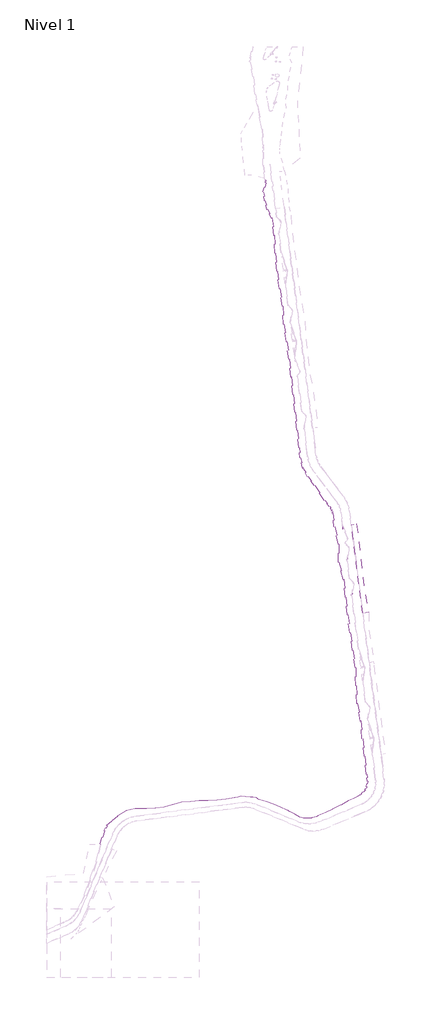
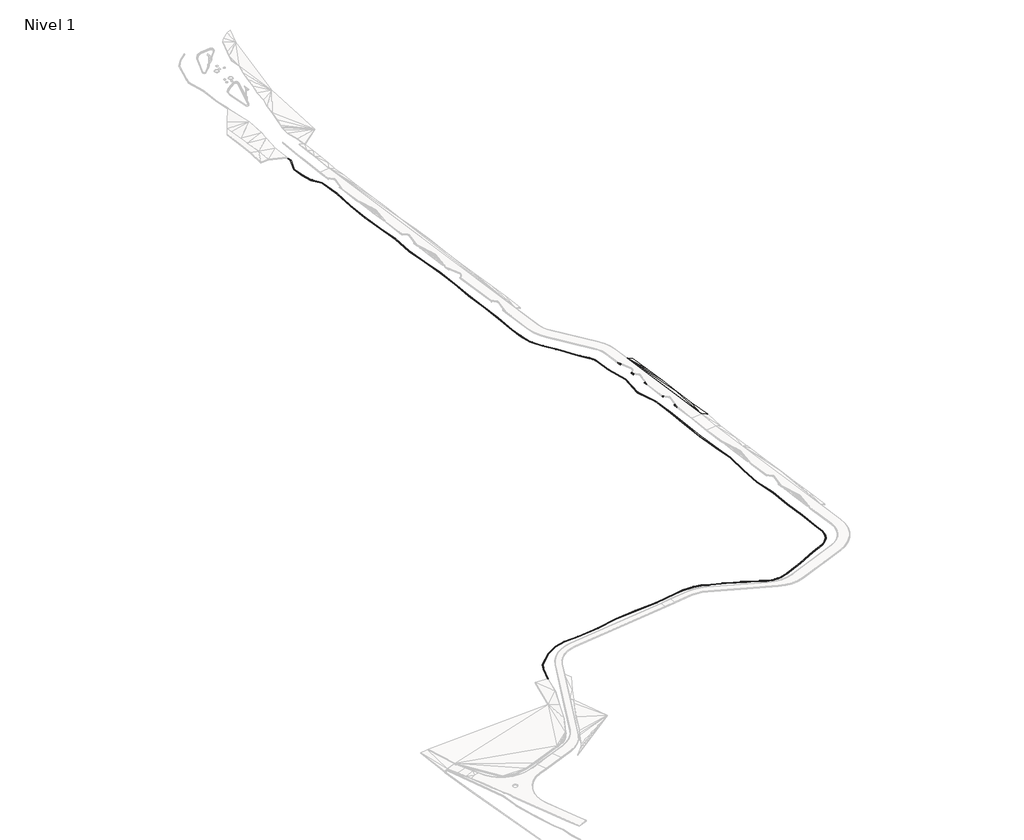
# One storey, part 32 of 45: 5 slabs.
"""IFC4 building model written with IfcOpenShell, lengths in millimetres."""

from ifc_helpers import new_model, si_unit, point, frame, frame_2d, origin, place, context, project, spatial, polyline, circle_curve, trimmed, segment, composite_curve, outline, extrude, faceted_brep, element, save

model = new_model("IFC4")

# Units and contexts
model_context = context("Model", 3, world=origin())
ifc_project = project(units=[si_unit("LENGTHUNIT", "METRE", prefix="MILLI")], contexts=[model_context])

# Site, building, storey
site = spatial("IfcSite", under=ifc_project)
building = spatial("IfcBuilding", under=site)
storey = spatial("IfcBuildingStorey", under=building, Name="Nivel 1", Elevation=0.0)

# Slabs
placement = place(None, origin())
element("IfcSlab", 1, ObjectType="Junko", at=placement, inside=storey, context=model_context, shape_type="Brep", body=[
    faceted_brep([(-167097.3574022, 564093.4118054, 4950.0), (-167097.3574022, 564093.4118054, 5250.0), (-173522.4510964, 613678.8751115, 5250.0), (-173522.4510964, 613678.8751115, 4950.0), (-170578.5024491, 614060.3406586, 3765.7198753), (-170578.5024491, 614060.3406586, 3465.7198753), (-169414.313007, 604127.5913944, 3826.6396178), (-169414.313007, 604127.5913944, 3526.6396178), (-168050.3864529, 594220.7233054, 3786.8559166), (-168050.3864529, 594220.7233054, 3486.8559166), (-167115.7284191, 584258.2322532, 3963.4787892), (-167115.7284191, 584258.2322532, 3663.4787892), (-165720.0663167, 574355.4763315, 3907.8737671), (-165720.0663167, 574355.4763315, 3607.8737671), (-163815.3003869, 564518.6881349, 3594.9918712), (-163815.3003869, 564518.6881349, 3294.9918712)], [[[0, 1, 2, 3]], [[3, 2, 4, 5]], [[5, 4, 6, 7]], [[7, 6, 8, 9]], [[9, 8, 10, 11]], [[11, 10, 12, 13]], [[13, 12, 14, 15]], [[15, 14, 1, 0]], [[14, 12, 1]], [[15, 0, 13]], [[10, 8, 2]], [[12, 10, 1]], [[10, 2, 1]], [[11, 3, 9]], [[13, 0, 11]], [[11, 0, 3]], [[8, 6, 2]], [[6, 4, 2]], [[9, 3, 7]], [[7, 3, 5]]]),
])
element("IfcSlab", 2, ObjectType="Bordillo", at=placement, inside=storey, context=model_context, shape_type="SweptSolid", body=[
    extrude(outline(composite_curve([segment(polyline([(-173092.4389889, 575242.3889204), (-173340.9296101, 573366.7532405), (-173579.8607816, 575211.9942229)]), True, "CONTINUOUS"), segment(trimmed(circle_curve(frame_2d((-173339.713488, 575284.3389626)), 250.8076633), [point((-173579.8607816, 575211.9942229))], [point((-173092.4389889, 575242.3889204))], True, "CARTESIAN"), True, "CONTINUOUS")], self_intersect=False)), frame((0.0, 0.0, 4850.0), z_axis=(0.0, 0.0, 1.0), x_axis=(1.0, 0.0, 0.0)), (0.0, 0.0, 1.0), 400.0),
    extrude(outline(composite_curve([segment(polyline([(-174534.9568111, 582582.9185051), (-174625.8747586, 583284.5749733), (-174113.9504243, 582787.7080237)]), True, "CONTINUOUS"), segment(trimmed(circle_curve(frame_2d((-174286.0605867, 582606.3848535)), 250.0000001), [point((-174113.9504243, 582787.7080237))], [point((-174534.9568111, 582582.9185051))], True, "CARTESIAN"), True, "CONTINUOUS")], self_intersect=False)), frame((0.0, 0.0, 4850.0), z_axis=(0.0, 0.0, 1.0), x_axis=(1.0, 0.0, 0.0)), (0.0, 0.0, 1.0), 400.0),
])
element("IfcSlab", 3, ObjectType="Bordillo", at=placement, inside=storey, context=model_context, shape_type="SweptSolid", body=[
    extrude(outline(composite_curve([segment(polyline([(-175662.7190917, 595077.1845948), (-175911.2097129, 593201.5489148), (-176150.1408844, 595046.7898972)]), True, "CONTINUOUS"), segment(trimmed(circle_curve(frame_2d((-175909.9935909, 595119.1346369)), 250.8076633), [point((-176150.1408844, 595046.7898972))], [point((-175662.7190917, 595077.1845948))], True, "CARTESIAN"), True, "CONTINUOUS")], self_intersect=False)), frame((0.0, 0.0, 4850.0), z_axis=(0.0, 0.0, 1.0), x_axis=(1.0, 0.0, 0.0)), (0.0, 0.0, 1.0), 400.0),
    extrude(outline(composite_curve([segment(polyline([(-177105.236914, 602417.7141794), (-177196.1548615, 603119.3706476), (-176684.2305271, 602622.503698)]), True, "CONTINUOUS"), segment(trimmed(circle_curve(frame_2d((-176856.3406895, 602441.1805278)), 250.0000001), [point((-176684.2305271, 602622.503698))], [point((-177105.236914, 602417.7141794))], True, "CARTESIAN"), True, "CONTINUOUS")], self_intersect=False)), frame((0.0, 0.0, 4850.0), z_axis=(0.0, 0.0, 1.0), x_axis=(1.0, 0.0, 0.0)), (0.0, 0.0, 1.0), 400.0),
])
element("IfcSlab", 4, ObjectType="Bordillo", at=placement, inside=storey, context=model_context, shape_type="SweptSolid", body=[
    extrude(outline(composite_curve([segment(trimmed(circle_curve(frame_2d((-177991.2627311, 611182.4989106)), 250.8076633), [point((-177762.8372419, 611286.0666653))], [point((-178241.9169851, 611191.2698234))], True, "CARTESIAN"), True, "CONTINUOUS"), segment(polyline([(-178241.9169851, 611191.2698234), (-178481.0134431, 613036.4893962), (-177762.8372419, 611286.0666653)]), True, "CONTINUOUS")], self_intersect=False)), frame((0.0, 0.0, 4850.0), z_axis=(0.0, 0.0, 1.0), x_axis=(1.0, 0.0, 0.0)), (0.0, 0.0, 1.0), 400.0),
    extrude(outline(composite_curve([segment(trimmed(circle_curve(frame_2d((-177040.820311, 603860.9834892)), 250.0000001), [point((-177287.4812097, 603820.2600181))], [point((-176828.1915636, 603729.495787))], True, "CARTESIAN"), True, "CONTINUOUS"), segment(polyline([(-176828.1915636, 603729.495787), (-177196.6261134, 603118.5954087), (-177287.4812097, 603820.2600181)]), True, "CONTINUOUS")], self_intersect=False)), frame((0.0, 0.0, 4850.0), z_axis=(0.0, 0.0, 1.0), x_axis=(1.0, 0.0, 0.0)), (0.0, 0.0, 1.0), 400.0),
])
element("IfcSlab", 5, ObjectType="Tierra de Chacra (20cm)", at=placement, inside=storey, context=model_context, shape_type="Brep", body=[
    faceted_brep([(-314297.1306308, 434377.2081619, 2724.3696749), (-314297.1306308, 434377.2081619, 2924.3696749), (-314348.3150934, 434154.0611876, 2909.7726519), (-314348.3150934, 434154.0611876, 2709.7726519), (-314656.1059044, 434154.0611876, 2909.7800629), (-314656.1059044, 434154.0611876, 2709.7800629), (-314584.2845562, 434464.0564381, 2924.4), (-314584.2845562, 434464.0564381, 2724.4), (-312315.3084711, 441966.1672926, 2661.5), (-312315.3084711, 441966.1672926, 2461.5), (-310958.5099295, 444872.1074346, 2628.8), (-310958.5099295, 444872.1074346, 2428.8), (-305099.4451506, 450326.5281053, 2872.5), (-305099.4451506, 450326.5281053, 2672.5), (-300000.2181792, 453297.0134293, 2840.2), (-300000.2181792, 453297.0134293, 2640.2), (-295070.6238445, 454524.536245, 2846.4), (-295070.6238445, 454524.536245, 2646.4), (-288643.893043, 454407.1399737, 3156.3), (-288643.893043, 454407.1399737, 2956.3), (-278727.298155, 455343.331534, 3267.4), (-278727.298155, 455343.331534, 3067.4), (-269001.8480405, 458141.8313555, 2754.3), (-269001.8480405, 458141.8313555, 2554.3), (-258982.2859286, 458934.677384, 2916.1), (-258982.2859286, 458934.677384, 2716.1), (-248937.2937026, 459136.5377181, 3275.2), (-248937.2937026, 459136.5377181, 3075.2), (-239076.507204, 460640.4059692, 3445.7), (-239076.507204, 460640.4059692, 3245.7), (-235485.5359479, 461394.1545627, 3349.4), (-235485.5359479, 461394.1545627, 3149.4), (-230281.6037737, 461068.2173176, 3452.6), (-230281.6037737, 461068.2173176, 3252.6), (-227073.3719482, 460650.1084889, 3363.8), (-227073.3719482, 460650.1084889, 3163.8), (-225290.902566, 459619.9266919, 3485.4), (-225290.902566, 459619.9266919, 3285.4), (-217177.8225341, 457119.9348178, 3214.2), (-217177.8225341, 457119.9348178, 3014.2), (-209480.5105424, 453508.6672167, 3338.4), (-209480.5105424, 453508.6672167, 3138.4), (-208089.7271772, 452856.1678882, 3360.7), (-208089.7271772, 452856.1678882, 3160.7), (-202286.813422, 449749.6379604, 3573.7), (-202286.813422, 449749.6379604, 3373.7), (-200329.1601339, 449289.611198, 3507.2), (-200329.1601339, 449289.611198, 3307.2), (-199374.9292359, 449150.3403641, 3494.0), (-199374.9292359, 449150.3403641, 3294.0), (-199072.6239558, 449123.2402494, 3489.3), (-199072.6239558, 449123.2402494, 3289.3), (-197320.7837564, 449114.4354495, 3465.0), (-197320.7837564, 449114.4354495, 3265.0), (-196333.8383084, 449205.9428557, 3456.9), (-196333.8383084, 449205.9428557, 3256.9), (-195622.0902691, 449317.3330616, 3453.2), (-195622.0902691, 449317.3330616, 3253.2), (-193029.277031, 450111.0579072, 3441.2), (-193029.277031, 450111.0579072, 3241.2), (-192415.4444316, 450430.9852539, 3420.4), (-192415.4444316, 450430.9852539, 3220.4), (-184085.4440567, 454106.9507429, 3344.9), (-184085.4440567, 454106.9507429, 3144.9), (-175240.4694333, 458884.7508751, 2994.8), (-175240.4694333, 458884.7508751, 2794.8), (-169612.2458977, 461461.1167809, 2915.0), (-169612.2458977, 461461.1167809, 2715.0), (-168022.9708353, 462569.0015082, 2852.8), (-168022.9708353, 462569.0015082, 2652.8), (-165921.7694394, 464833.5273975, 2874.8), (-165921.7694394, 464833.5273975, 2674.8), (-165064.130495, 466587.517356, 2920.0), (-165064.130495, 466587.517356, 2720.0), (-164603.3878392, 469708.4484172, 2998.1), (-164603.3878392, 469708.4484172, 2798.1), (-165058.9731386, 473610.2738511, 3014.7), (-165058.9731386, 473610.2738511, 2814.7), (-166131.7895463, 483551.8512529, 3086.0), (-166131.7895463, 483551.8512529, 2886.0), (-167489.4206586, 493461.7868927, 3061.7), (-167489.4206586, 493461.7868927, 2861.7), (-168414.0072167, 503416.5596767, 3182.6), (-168414.0072167, 503416.5596767, 2982.6), (-170364.3392552, 513251.8141089, 2959.3), (-170364.3392552, 513251.8141089, 2759.3), (-171004.3241015, 523276.6302534, 3176.6), (-171004.3241015, 523276.6302534, 2976.6), (-171365.2999619, 533299.3960505, 3486.9), (-171365.2999619, 533299.3960505, 3286.9), (-172926.6317706, 543164.1778667, 3393.3), (-172926.6317706, 543164.1778667, 3193.3), (-174372.4591425, 553063.2340736, 3339.3), (-174372.4591425, 553063.2340736, 3139.3), (-175753.5388708, 562974.44395, 3807.4), (-175753.5388708, 562974.44395, 3607.4), (-176768.6215262, 572927.685332, 3898.2), (-176768.6215262, 572927.685332, 3698.2), (-178068.4298344, 582815.3512644, 3892.0), (-178068.4298344, 582815.3512644, 3692.0), (-180902.4450166, 592552.8580778, 3373.3), (-180902.4450166, 592552.8580778, 3173.3), (-180812.9949507, 602654.4749545, 3835.3), (-180812.9949507, 602654.4749545, 3635.3), (-183211.0583387, 612406.8307417, 3459.5), (-183211.0583387, 612406.8307417, 3259.5), (-184178.2206099, 620015.285931, 3465.6), (-184178.2206099, 620015.285931, 3265.6), (-184460.4898096, 621204.2242668, 3454.3), (-184460.4898096, 621204.2242668, 3254.3), (-184758.3650473, 621980.0650933, 3445.5), (-184758.3650473, 621980.0650933, 3245.5), (-185847.6543783, 623741.4048329, 3422.4), (-185847.6543783, 623741.4048329, 3222.4), (-188563.7005709, 627193.8977944, 3401.8), (-188563.7005709, 627193.8977944, 3201.8), (-194205.9251129, 635471.7979169, 3582.6), (-194205.9251129, 635471.7979169, 3382.6), (-198122.6744263, 640675.1791462, 3598.1), (-198122.6744263, 640675.1791462, 3398.1), (-200682.802975, 645008.5055002, 3603.8), (-200682.802975, 645008.5055002, 3403.8), (-200964.6319129, 645662.2355347, 3603.8), (-200964.6319129, 645662.2355347, 3403.8), (-202462.5976581, 651172.7400229, 3593.0), (-202462.5976581, 651172.7400229, 3393.0), (-203093.4729667, 656727.848457, 3622.1), (-203093.4729667, 656727.848457, 3422.1), (-204047.7703108, 666687.036212, 3733.3), (-204047.7703108, 666687.036212, 3533.3), (-205225.5322156, 676613.2691052, 3769.1), (-205225.5322156, 676613.2691052, 3569.1), (-206492.5566341, 686537.3325821, 3775.5), (-206492.5566341, 686537.3325821, 3575.5), (-207366.5989117, 696508.5678058, 3913.5), (-207366.5989117, 696508.5678058, 3713.5), (-208573.6025076, 706426.8808834, 3939.4), (-208573.6025076, 706426.8808834, 3739.4), (-210029.5575578, 716314.7910047, 3881.6), (-210029.5575578, 716314.7910047, 3681.6), (-211701.0409129, 726194.0732305, 3752.5), (-211701.0409129, 726194.0732305, 3552.5), (-212353.2670658, 736194.5847806, 3965.2), (-212353.2670658, 736194.5847806, 3765.2), (-213927.3139931, 746061.6813042, 3867.3), (-213927.3139931, 746061.6813042, 3667.3), (-215403.9027975, 755963.2785648, 3803.4), (-215403.9027975, 755963.2785648, 3603.4), (-216369.4678675, 765935.5396473, 3911.2), (-216369.4678675, 765935.5396473, 3711.2), (-216939.5688102, 775938.1898965, 4151.4), (-216939.5688102, 775938.1898965, 3951.4), (-218359.4591737, 785772.0457053, 4102.9), (-218359.4591737, 785772.0457053, 3902.9), (-220855.5002006, 790471.5744545, 3476.8), (-220855.5002006, 790471.5744545, 3276.8), (-222233.7392625, 795377.9292863, 3483.4), (-222233.7392625, 795377.9292863, 3283.4), (-223250.8392983, 800373.7789365, 3613.2), (-223250.8392983, 800373.7789365, 3413.2), (-221711.7027759, 805621.1406601, 4345.8), (-221711.7027759, 805621.1406601, 4145.8), (-221984.5513339, 807323.1848191, 4417.5), (-221984.5513339, 807323.1848191, 4217.5), (-221688.3333165, 807370.6704607, 4417.5201004), (-221688.3333165, 807370.6704607, 4217.5201004), (-221404.7596019, 805601.7221907, 4345.7785209), (-221404.7596019, 805601.7221907, 4145.7785209), (-222942.0282452, 800360.7286071, 3613.2267254), (-222942.0282452, 800360.7286071, 3413.2267254), (-221941.9553801, 795448.5139796, 3483.3914761), (-221941.9553801, 795448.5139796, 3283.3914761), (-220575.4095371, 790583.7855121, 3476.7701096), (-220575.4095371, 790583.7855121, 3276.7701096), (-218070.004386, 785866.6260546, 4102.9127088), (-218070.004386, 785866.6260546, 3902.9127088), (-216640.7933513, 775968.2172784, 4151.3713345), (-216640.7933513, 775968.2172784, 3951.3713345), (-216070.2919153, 765958.5402129, 3911.1590055), (-216070.2919153, 765958.5402129, 3711.1590055), (-215106.0440695, 755999.8832928, 3803.3517013), (-215106.0440695, 755999.8832928, 3603.3517013), (-213630.8198739, 746107.4367227, 3867.2982975), (-213630.8198739, 746107.4367227, 3667.2982975), (-212054.8122405, 736228.0492844, 3965.1848164), (-212054.8122405, 736228.0492844, 3765.1848164), (-211402.6781854, 726228.9498603, 3752.5106643), (-211402.6781854, 726228.9498603, 3552.5106643), (-209733.2256305, 716361.6706548, 3881.60718), (-209733.2256305, 716361.6706548, 3681.60718), (-208276.2543491, 706466.8589445, 3939.3596602), (-208276.2543491, 706466.8589445, 3739.3596602), (-207068.1858658, 696539.7953657, 3913.5179573), (-207068.1858658, 696539.7953657, 3713.5179573), (-206194.22071, 686569.4399612, 3775.4698466), (-206194.22071, 686569.4399612, 3575.4698466), (-204927.7789457, 676649.9401672, 3769.0913059), (-204927.7789457, 676649.9401672, 3569.0913059), (-203749.4610809, 666719.021617, 3733.3053223), (-203749.4610809, 666719.021617, 3533.3053223), (-202795.0919469, 656759.0846518, 3622.1341842), (-202795.0919469, 656759.0846518, 3422.1341842), (-202167.0973254, 651229.3418148, 3592.9545609), (-202167.0973254, 651229.3418148, 3392.9545609), (-200680.7188796, 645761.4630447, 3603.7788026), (-200680.7188796, 645761.4630447, 3403.7788026), (-200414.8407857, 645144.7325671, 3603.8472357), (-200414.8407857, 645144.7325671, 3403.8472357), (-197872.9094364, 640842.2071678, 3598.1478658), (-197872.9094364, 640842.2071678, 3398.1478658), (-193962.0012481, 635646.5858431, 3582.6258263), (-193962.0012481, 635646.5858431, 3382.6258263), (-188321.5798881, 627371.3312303, 3401.7986832), (-188321.5798881, 627371.3312303, 3201.7986832), (-185601.4072415, 623913.5929407, 3422.3779146), (-185601.4072415, 623913.5929407, 3222.3779146), (-184488.396774, 622113.8970187, 3445.5308704), (-184488.396774, 622113.8970187, 3245.5308704), (-184173.2351665, 621293.0324046, 3454.2535097), (-184173.2351665, 621293.0324046, 3254.2535097), (-183882.634822, 620069.0026829, 3465.6432856), (-183882.634822, 620069.0026829, 3265.6432856), (-182915.6246206, 612461.7437931, 3459.5007901), (-182915.6246206, 612461.7437931, 3259.5007901), (-180512.6729656, 602689.5085821, 3835.2924375), (-180512.6729656, 602689.5085821, 3635.2924375), (-180602.0660652, 592594.324919, 3373.3448601), (-180602.0660652, 592594.324919, 3173.3448601), (-177773.9762959, 582877.17747, 3891.9660147), (-177773.9762959, 582877.17747, 3691.9660147), (-176470.6121139, 572962.4619396, 3898.1527318), (-176470.6121139, 572962.4619396, 3698.1527318), (-175455.64737, 563010.3767222, 3807.40939), (-175455.64737, 563010.3767222, 3607.40939), (-174075.4661405, 553105.6148508, 3339.2818169), (-174075.4661405, 553105.6148508, 3139.2818169), (-172630.0402056, 543209.3071384, 3393.315842), (-172630.0402056, 543209.3071384, 3193.315842), (-171066.1482429, 533328.3497976, 3486.9292615), (-171066.1482429, 533328.3497976, 3286.9292615), (-170704.6683272, 523291.5885268, 3176.5927009), (-170704.6683272, 523291.5885268, 2976.5927009), (-170066.2120928, 513290.7167827, 2959.2807603), (-170066.2120928, 513290.7167827, 2759.2807603), (-168116.7250159, 503459.7233744, 3182.60605), (-168116.7250159, 503459.7233744, 2982.60605), (-167191.310352, 493496.0346004, 3061.7189207), (-167191.310352, 493496.0346004, 2861.7189207), (-165833.9823502, 483588.3114958, 3086.0281882), (-165833.9823502, 483588.3114958, 2886.0281882), (-164760.8454339, 473643.7640028, 3014.7318517), (-164760.8454339, 473643.7640028, 2814.7318517), (-164300.8138509, 469703.8587132, 2998.1263232), (-164300.8138509, 469703.8587132, 2798.1263232), (-164774.153109, 466497.6020871, 2920.0), (-164774.153109, 466497.6020871, 2720.0), (-165671.7223115, 464661.9492421, 2874.8148102), (-165671.7223115, 464661.9492421, 2674.8148102), (-167824.9754934, 462341.3256282, 2852.7996266), (-167824.9754934, 462341.3256282, 2652.7996266), (-169462.8325881, 461199.5743332, 2914.9866987), (-169462.8325881, 461199.5743332, 2714.9866987), (-175106.6005879, 458616.0928203, 2994.8492811), (-175106.6005879, 458616.0928203, 2794.8492811), (-183953.3854104, 453837.3148707, 3344.9206703), (-183953.3854104, 453837.3148707, 3144.9206703), (-192285.4201912, 450160.4516139, 3420.4430135), (-192285.4201912, 450160.4516139, 3220.4430135), (-192915.0839239, 449832.2731374, 3441.2264791), (-192915.0839239, 449832.2731374, 3241.2264791), (-195554.6512213, 449024.2357073, 3453.2404622), (-195554.6512213, 449024.2357073, 3253.2404622), (-196296.7604723, 448908.0939019, 3456.945537), (-196296.7604723, 448908.0939019, 3256.945537), (-197307.6582227, 448814.3656911, 3465.032909), (-197307.6582227, 448814.3656911, 3265.032909), (-199086.7960842, 448823.3076898, 3489.3460527), (-199086.7960842, 448823.3076898, 3289.3460527), (-199410.0124054, 448852.2823719, 3494.0337656), (-199410.0124054, 448852.2823719, 3294.0337656), (-200385.2402411, 448994.6177272, 3507.2463654), (-200385.2402411, 448994.6177272, 3307.2463654), (-202393.7283722, 449466.5901126, 3573.6948291), (-202393.7283722, 449466.5901126, 3373.6948291), (-208224.3265213, 452587.9405947, 3360.6932548), (-208224.3265213, 452587.9405947, 3160.6932548), (-209607.931897, 453237.0723007, 3338.3535093), (-209607.931897, 453237.0723007, 3138.3535093), (-217286.2336969, 456839.4210884, 3214.2327204), (-217286.2336969, 456839.4210884, 3014.2327204), (-225411.656846, 459343.2164123, 3485.395845), (-225411.656846, 459343.2164123, 3285.395845), (-227171.5863549, 460360.3712437, 3363.8481969), (-227171.5863549, 460360.3712437, 3163.8481969), (-230310.3973136, 460769.4328842, 3452.5716048), (-230310.3973136, 460769.4328842, 3252.5716048), (-235463.7049807, 461092.1993708, 3349.4343559), (-235463.7049807, 461092.1993708, 3149.4343559), (-239023.0372862, 460345.0918259, 3445.7287789), (-239023.0372862, 460345.0918259, 3245.7287789), (-248911.5542726, 458836.9943989, 3275.2460289), (-248911.5542726, 458836.9943989, 3075.2460289), (-258967.4268384, 458634.9154176, 2916.1301522), (-258967.4268384, 458634.9154176, 2716.1301522), (-268947.9928542, 457845.1551428, 2754.3102196), (-268947.9928542, 457845.1551428, 2554.3102196), (-278671.2366827, 455047.2901804, 3267.4124168), (-278671.2366827, 455047.2901804, 3067.4124168), (-288632.4983738, 454106.8817811, 3156.3083631), (-288632.4983738, 454106.8817811, 2956.3083631), (-295036.5355573, 454223.863511, 2846.4085565), (-295036.5355573, 454223.863511, 2646.4085565), (-299886.1950891, 453016.245334, 2840.1828976), (-299886.1950891, 453016.245334, 2640.1828976), (-304919.5234877, 450084.1483274, 2872.4877835), (-304919.5234877, 450084.1483274, 2672.4877835), (-310711.3736855, 444692.3002029, 2628.8495922), (-310711.3736855, 444692.3002029, 2428.8495922), (-312034.3802386, 441858.7344723, 2661.5365338), (-312034.3802386, 441858.7344723, 2461.5365338)], [[[0, 1, 2, 3]], [[3, 2, 4, 5]], [[5, 4, 6, 7]], [[7, 6, 8, 9]], [[9, 8, 10, 11]], [[11, 10, 12, 13]], [[13, 12, 14, 15]], [[15, 14, 16, 17]], [[17, 16, 18, 19]], [[19, 18, 20, 21]], [[21, 20, 22, 23]], [[23, 22, 24, 25]], [[25, 24, 26, 27]], [[27, 26, 28, 29]], [[29, 28, 30, 31]], [[31, 30, 32, 33]], [[33, 32, 34, 35]], [[35, 34, 36, 37]], [[37, 36, 38, 39]], [[39, 38, 40, 41]], [[41, 40, 42, 43]], [[43, 42, 44, 45]], [[45, 44, 46, 47]], [[47, 46, 48, 49]], [[49, 48, 50, 51]], [[51, 50, 52, 53]], [[53, 52, 54, 55]], [[55, 54, 56, 57]], [[57, 56, 58, 59]], [[59, 58, 60, 61]], [[61, 60, 62, 63]], [[63, 62, 64, 65]], [[65, 64, 66, 67]], [[67, 66, 68, 69]], [[69, 68, 70, 71]], [[71, 70, 72, 73]], [[73, 72, 74, 75]], [[75, 74, 76, 77]], [[77, 76, 78, 79]], [[79, 78, 80, 81]], [[81, 80, 82, 83]], [[83, 82, 84, 85]], [[85, 84, 86, 87]], [[87, 86, 88, 89]], [[89, 88, 90, 91]], [[91, 90, 92, 93]], [[93, 92, 94, 95]], [[95, 94, 96, 97]], [[97, 96, 98, 99]], [[99, 98, 100, 101]], [[101, 100, 102, 103]], [[103, 102, 104, 105]], [[105, 104, 106, 107]], [[107, 106, 108, 109]], [[109, 108, 110, 111]], [[111, 110, 112, 113]], [[113, 112, 114, 115]], [[115, 114, 116, 117]], [[117, 116, 118, 119]], [[119, 118, 120, 121]], [[121, 120, 122, 123]], [[123, 122, 124, 125]], [[125, 124, 126, 127]], [[127, 126, 128, 129]], [[129, 128, 130, 131]], [[131, 130, 132, 133]], [[133, 132, 134, 135]], [[135, 134, 136, 137]], [[137, 136, 138, 139]], [[139, 138, 140, 141]], [[141, 140, 142, 143]], [[143, 142, 144, 145]], [[145, 144, 146, 147]], [[147, 146, 148, 149]], [[149, 148, 150, 151]], [[151, 150, 152, 153]], [[153, 152, 154, 155]], [[155, 154, 156, 157]], [[157, 156, 158, 159]], [[159, 158, 160, 161]], [[161, 160, 162, 163]], [[163, 162, 164, 165]], [[165, 164, 166, 167]], [[167, 166, 168, 169]], [[169, 168, 170, 171]], [[171, 170, 172, 173]], [[173, 172, 174, 175]], [[175, 174, 176, 177]], [[177, 176, 178, 179]], [[179, 178, 180, 181]], [[181, 180, 182, 183]], [[183, 182, 184, 185]], [[185, 184, 186, 187]], [[187, 186, 188, 189]], [[189, 188, 190, 191]], [[191, 190, 192, 193]], [[193, 192, 194, 195]], [[195, 194, 196, 197]], [[197, 196, 198, 199]], [[199, 198, 200, 201]], [[201, 200, 202, 203]], [[203, 202, 204, 205]], [[205, 204, 206, 207]], [[207, 206, 208, 209]], [[209, 208, 210, 211]], [[211, 210, 212, 213]], [[213, 212, 214, 215]], [[215, 214, 216, 217]], [[217, 216, 218, 219]], [[219, 218, 220, 221]], [[221, 220, 222, 223]], [[223, 222, 224, 225]], [[225, 224, 226, 227]], [[227, 226, 228, 229]], [[229, 228, 230, 231]], [[231, 230, 232, 233]], [[233, 232, 234, 235]], [[235, 234, 236, 237]], [[237, 236, 238, 239]], [[239, 238, 240, 241]], [[241, 240, 242, 243]], [[243, 242, 244, 245]], [[245, 244, 246, 247]], [[247, 246, 248, 249]], [[249, 248, 250, 251]], [[251, 250, 252, 253]], [[253, 252, 254, 255]], [[255, 254, 256, 257]], [[257, 256, 258, 259]], [[259, 258, 260, 261]], [[261, 260, 262, 263]], [[263, 262, 264, 265]], [[265, 264, 266, 267]], [[267, 266, 268, 269]], [[269, 268, 270, 271]], [[271, 270, 272, 273]], [[273, 272, 274, 275]], [[275, 274, 276, 277]], [[277, 276, 278, 279]], [[279, 278, 280, 281]], [[281, 280, 282, 283]], [[283, 282, 284, 285]], [[285, 284, 286, 287]], [[287, 286, 288, 289]], [[289, 288, 290, 291]], [[291, 290, 292, 293]], [[293, 292, 294, 295]], [[295, 294, 296, 297]], [[297, 296, 298, 299]], [[299, 298, 300, 301]], [[301, 300, 302, 303]], [[303, 302, 304, 305]], [[305, 304, 306, 307]], [[307, 306, 308, 309]], [[309, 308, 310, 311]], [[311, 310, 312, 313]], [[313, 312, 314, 315]], [[315, 314, 316, 317]], [[317, 316, 318, 319]], [[319, 318, 1, 0]], [[318, 316, 8]], [[319, 9, 317]], [[6, 4, 2]], [[6, 2, 1]], [[7, 3, 5]], [[7, 0, 3]], [[318, 8, 6]], [[318, 6, 1]], [[319, 7, 9]], [[319, 0, 7]], [[316, 10, 8]], [[316, 314, 12]], [[317, 9, 11]], [[317, 13, 315]], [[316, 12, 10]], [[314, 312, 12]], [[317, 11, 13]], [[315, 13, 313]], [[312, 310, 16]], [[313, 17, 311]], [[312, 14, 12]], [[313, 13, 15]], [[312, 16, 14]], [[310, 308, 18]], [[313, 15, 17]], [[311, 19, 309]], [[310, 18, 16]], [[308, 306, 20]], [[311, 17, 19]], [[309, 21, 307]], [[308, 20, 18]], [[306, 304, 20]], [[309, 19, 21]], [[307, 21, 305]], [[304, 302, 24]], [[305, 25, 303]], [[304, 22, 20]], [[305, 21, 23]], [[304, 24, 22]], [[302, 300, 26]], [[305, 23, 25]], [[303, 27, 301]], [[302, 26, 24]], [[300, 298, 26]], [[303, 25, 27]], [[301, 27, 299]], [[298, 296, 28]], [[299, 29, 297]], [[298, 28, 26]], [[299, 27, 29]], [[296, 30, 28]], [[296, 294, 32]], [[297, 29, 31]], [[297, 33, 295]], [[296, 32, 30]], [[297, 31, 33]], [[294, 292, 32]], [[295, 33, 293]], [[292, 34, 32]], [[292, 290, 36]], [[293, 33, 35]], [[293, 37, 291]], [[292, 36, 34]], [[293, 35, 37]], [[290, 288, 36]], [[291, 37, 289]], [[288, 38, 36]], [[288, 286, 40]], [[289, 37, 39]], [[289, 41, 287]], [[288, 40, 38]], [[286, 284, 40]], [[289, 39, 41]], [[287, 41, 285]], [[284, 42, 40]], [[284, 282, 44]], [[285, 41, 43]], [[285, 45, 283]], [[284, 44, 42]], [[285, 43, 45]], [[282, 280, 44]], [[283, 45, 281]], [[280, 46, 44]], [[280, 278, 46]], [[281, 45, 47]], [[281, 47, 279]], [[278, 48, 46]], [[278, 276, 50]], [[279, 47, 49]], [[279, 51, 277]], [[278, 50, 48]], [[279, 49, 51]], [[276, 274, 52]], [[277, 53, 275]], [[276, 52, 50]], [[277, 51, 53]], [[274, 272, 52]], [[275, 53, 273]], [[272, 54, 52]], [[272, 270, 56]], [[273, 53, 55]], [[273, 57, 271]], [[272, 56, 54]], [[273, 55, 57]], [[270, 268, 58]], [[271, 59, 269]], [[270, 58, 56]], [[271, 57, 59]], [[268, 266, 58]], [[269, 59, 267]], [[266, 60, 58]], [[266, 264, 62]], [[267, 59, 61]], [[267, 63, 265]], [[266, 62, 60]], [[267, 61, 63]], [[264, 262, 62]], [[265, 63, 263]], [[262, 260, 66]], [[263, 67, 261]], [[262, 64, 62]], [[263, 63, 65]], [[262, 66, 64]], [[260, 258, 68]], [[263, 65, 67]], [[261, 69, 259]], [[260, 68, 66]], [[258, 256, 70]], [[261, 67, 69]], [[259, 71, 257]], [[258, 70, 68]], [[256, 254, 72]], [[259, 69, 71]], [[257, 73, 255]], [[256, 72, 70]], [[254, 252, 72]], [[257, 71, 73]], [[255, 73, 253]], [[252, 250, 74]], [[253, 75, 251]], [[252, 74, 72]], [[253, 73, 75]], [[250, 248, 78]], [[251, 79, 249]], [[250, 76, 74]], [[251, 75, 77]], [[250, 78, 76]], [[251, 77, 79]], [[248, 246, 78]], [[249, 79, 247]], [[246, 244, 82]], [[247, 83, 245]], [[246, 80, 78]], [[247, 79, 81]], [[246, 82, 80]], [[244, 242, 82]], [[247, 81, 83]], [[245, 83, 243]], [[242, 240, 86]], [[243, 87, 241]], [[242, 84, 82]], [[243, 83, 85]], [[240, 238, 88]], [[242, 86, 84]], [[241, 89, 239]], [[243, 85, 87]], [[240, 88, 86]], [[241, 87, 89]], [[238, 236, 88]], [[239, 89, 237]], [[236, 234, 92]], [[237, 93, 235]], [[236, 90, 88]], [[237, 89, 91]], [[236, 92, 90]], [[234, 232, 92]], [[237, 91, 93]], [[235, 93, 233]], [[232, 230, 96]], [[233, 97, 231]], [[232, 94, 92]], [[233, 93, 95]], [[230, 228, 98]], [[232, 96, 94]], [[231, 99, 229]], [[233, 95, 97]], [[228, 226, 98]], [[230, 98, 96]], [[229, 99, 227]], [[231, 97, 99]], [[226, 224, 102]], [[227, 103, 225]], [[226, 100, 98]], [[227, 99, 101]], [[226, 102, 100]], [[224, 222, 102]], [[227, 101, 103]], [[225, 103, 223]], [[222, 220, 106]], [[223, 107, 221]], [[222, 104, 102]], [[223, 103, 105]], [[222, 106, 104]], [[220, 218, 108]], [[223, 105, 107]], [[221, 109, 219]], [[220, 108, 106]], [[218, 216, 110]], [[221, 107, 109]], [[219, 111, 217]], [[218, 110, 108]], [[216, 214, 110]], [[219, 109, 111]], [[217, 111, 215]], [[214, 212, 112]], [[215, 113, 213]], [[214, 112, 110]], [[215, 111, 113]], [[212, 210, 116]], [[213, 117, 211]], [[212, 114, 112]], [[213, 113, 115]], [[210, 208, 116]], [[212, 116, 114]], [[211, 117, 209]], [[213, 115, 117]], [[208, 206, 118]], [[209, 119, 207]], [[208, 118, 116]], [[209, 117, 119]], [[206, 204, 120]], [[207, 121, 205]], [[206, 120, 118]], [[207, 119, 121]], [[204, 202, 122]], [[205, 123, 203]], [[204, 122, 120]], [[205, 121, 123]], [[202, 200, 126]], [[203, 127, 201]], [[202, 124, 122]], [[203, 123, 125]], [[202, 126, 124]], [[200, 198, 128]], [[203, 125, 127]], [[201, 129, 199]], [[200, 128, 126]], [[198, 196, 128]], [[201, 127, 129]], [[199, 129, 197]], [[196, 194, 130]], [[197, 131, 195]], [[196, 130, 128]], [[197, 129, 131]], [[194, 192, 134]], [[195, 135, 193]], [[194, 132, 130]], [[195, 131, 133]], [[194, 134, 132]], [[192, 190, 134]], [[195, 133, 135]], [[193, 135, 191]], [[190, 188, 136]], [[191, 137, 189]], [[190, 136, 134]], [[191, 135, 137]], [[188, 186, 138]], [[189, 139, 187]], [[188, 138, 136]], [[189, 137, 139]], [[186, 184, 142]], [[187, 143, 185]], [[186, 140, 138]], [[187, 139, 141]], [[186, 142, 140]], [[184, 182, 142]], [[187, 141, 143]], [[185, 143, 183]], [[182, 180, 144]], [[183, 145, 181]], [[182, 144, 142]], [[183, 143, 145]], [[180, 178, 148]], [[181, 149, 179]], [[180, 146, 144]], [[181, 145, 147]], [[180, 148, 146]], [[178, 176, 150]], [[181, 147, 149]], [[179, 151, 177]], [[178, 150, 148]], [[176, 174, 152]], [[179, 149, 151]], [[177, 153, 175]], [[176, 152, 150]], [[174, 172, 152]], [[177, 151, 153]], [[175, 153, 173]], [[172, 170, 156]], [[173, 157, 171]], [[172, 154, 152]], [[173, 153, 155]], [[170, 168, 156]], [[172, 156, 154]], [[171, 157, 169]], [[173, 155, 157]], [[168, 166, 160]], [[169, 161, 167]], [[168, 158, 156]], [[169, 157, 159]], [[168, 160, 158]], [[166, 164, 160]], [[169, 159, 161]], [[167, 161, 165]], [[164, 162, 160]], [[165, 161, 163]]]),
])

save(model, "model.ifc")
